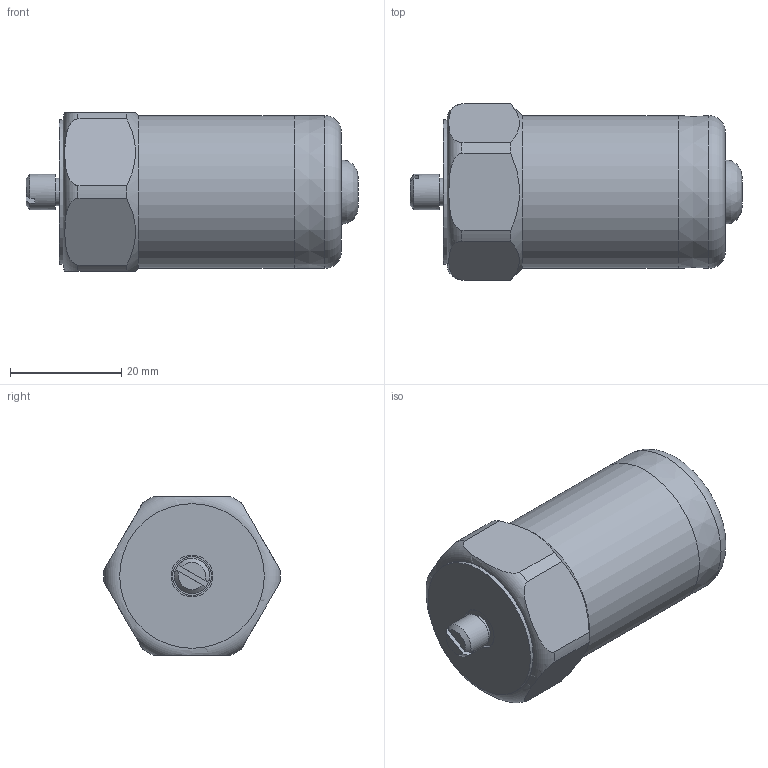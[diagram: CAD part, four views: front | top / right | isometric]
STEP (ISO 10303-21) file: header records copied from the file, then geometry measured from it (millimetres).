
FILE_DESCRIPTION(/* description */ (''),/* implementation_level */ '2;1');
FILE_NAME(/* name */ 'Z:\Engineering\Drawings\3D Library\Assemblies\Website\420 Velocity\HS-420XXX0202.stp',/* time_stamp */ '2023-05-03T13:34:48+01:00',/* author */ ('Ricardo.Peneda'),/* organization */ (''),/* preprocessor_version */ 'ST-DEVELOPER v18.1',/* originating_system */ 'Autodesk Inventor 2021',/* authorisation */ '');
FILE_SCHEMA (('AUTOMOTIVE_DESIGN { 1 0 10303 214 3 1 1 }'));
Length unit declared in the file: inch
Products named in the file (1): HS-420XXX0202_Shrinkwrap_1
Bounding box: 59.67 x 31.69 x 28.5 mm (x, y, z)
Volume: 14734.4 mm3; surface area: 10427.1 mm2
Topology: 3 solids, 3 shells, 63 faces, 172 edges, 120 vertices
Faces by surface type: plane 25, cone 19, cylinder 16, torus 2, bspline 1
Full cylindrical faces by diameter (mm): 4.914 x2, 6.3 x1, 6.34 x2, 7.027 x1, 7.5 x1, 25.3 x1, 26 x1, 27.5 x1
Entity records: 2304 total; most frequent: CARTESIAN_POINT 544, DIRECTION 373, ORIENTED_EDGE 344, EDGE_CURVE 172, AXIS2_PLACEMENT_3D 160, VERTEX_POINT 120, CIRCLE 97, EDGE_LOOP 70
